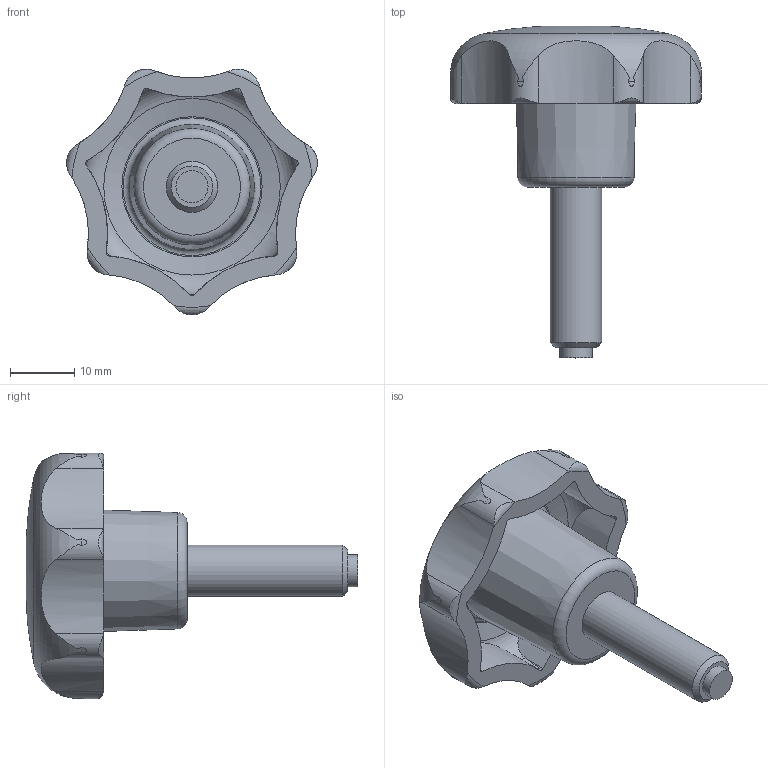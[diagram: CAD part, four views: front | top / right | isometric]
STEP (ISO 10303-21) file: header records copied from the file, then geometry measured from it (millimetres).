
FILE_DESCRIPTION( ( 'STEP AP203' ), '1' );
FILE_NAME( 'C:/Temp/Ganter_Step_05_03_2020/data/2_2/gn6336_10/Star knob GN 6336.10-40-M8-25-KU.stp', '2020-03-05T12:04:24', ( 'License CC BY-ND 4.0' ), ( 'CADENAS' ), ' ', 'PARTsolutions', ' ' );
FILE_SCHEMA( ( 'CONFIG_CONTROL_DESIGN' ) );
Length unit declared in the file: millimetre
Products named in the file (1): _Star knob GN 6336.10-40-M8-25-KU
Bounding box: 39.03 x 51.67 x 38.23 mm (x, y, z)
Volume: 12790.8 mm3; surface area: 5768.4 mm2
Topology: 1 solids, 1 shells, 64 faces, 188 edges, 128 vertices
Faces by surface type: cylinder 30, cone 17, torus 12, plane 4, bspline 1
Full cylindrical faces by diameter (mm): 5 x1, 8 x1
Entity records: 3177 total; most frequent: CARTESIAN_POINT 1616, ORIENTED_EDGE 346, DIRECTION 264, EDGE_CURVE 173, VERTEX_POINT 126, AXIS2_PLACEMENT_3D 118, B_SPLINE_CURVE_WITH_KNOTS 91, EDGE_LOOP 77
